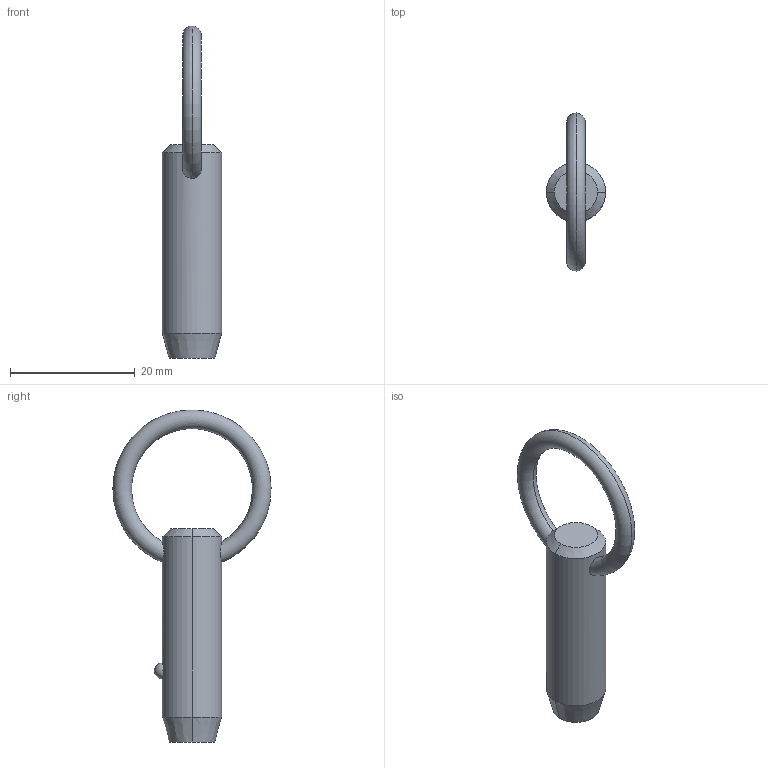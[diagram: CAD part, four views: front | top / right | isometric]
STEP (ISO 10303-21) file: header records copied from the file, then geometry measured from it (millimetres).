
FILE_DESCRIPTION (( 'STEP AP203' ), '1' );
FILE_NAME ('P1250.037-060.step', '2019-07-29T19:58:10', ( '' ), ( '' ), 'SwSTEP 2.0', 'SolidWorks 2017', '' );
FILE_SCHEMA (( 'CONFIG_CONTROL_DESIGN' ));
Length unit declared in the file: millimetre
Products named in the file (1): P1250.037-060
Bounding box: 9.52 x 25.39 x 53.3 mm (x, y, z)
Volume: 2789.1 mm3; surface area: 1666.6 mm2
Topology: 1 solids, 1 shells, 12 faces, 28 edges, 17 vertices
Faces by surface type: cone 4, torus 2, sphere 2, cylinder 2, plane 2
Entity records: 523 total; most frequent: CARTESIAN_POINT 190, DIRECTION 56, ORIENTED_EDGE 48, AXIS2_PLACEMENT_3D 25, EDGE_CURVE 24, VERTEX_POINT 15, EDGE_LOOP 15, ADVANCED_FACE 12
